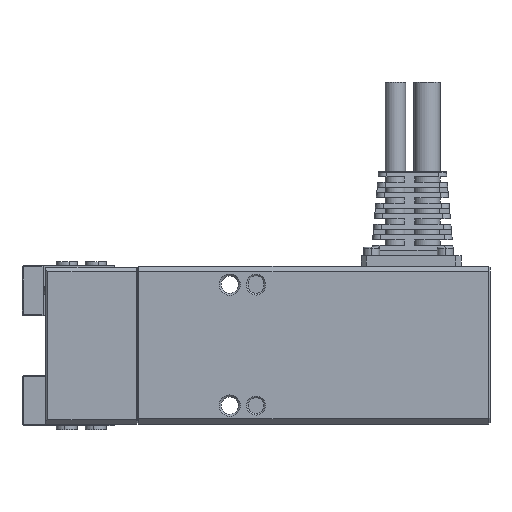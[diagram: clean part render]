
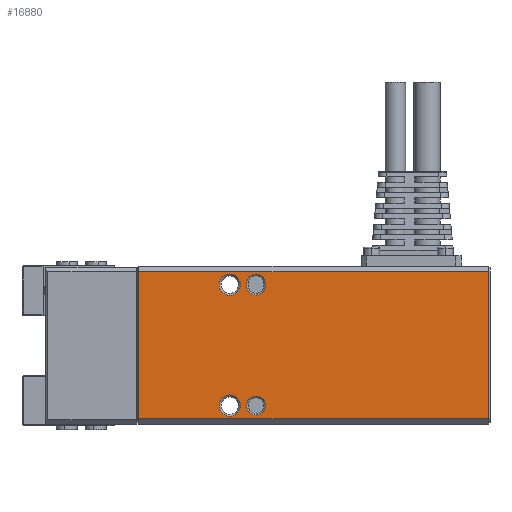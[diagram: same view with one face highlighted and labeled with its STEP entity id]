
A CAD part, left-side view. The second image highlights one B-rep face of the part: STEP entity #16880.
In plain terms, the highlighted planar face has unit normal (-1, 0, 0) as drawn and (0, 1, 0) by its records, which use the part's own axes.
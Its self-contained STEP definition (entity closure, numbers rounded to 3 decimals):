
#182 = EDGE_CURVE ( 'NONE', #13554, #14979, #17456, .T. ) ;
#304 = CARTESIAN_POINT ( 'NONE',  ( 11.5, 9., 19.525 ) ) ;
#528 = CARTESIAN_POINT ( 'NONE',  ( -14., 9., 67. ) ) ;
#647 = CARTESIAN_POINT ( 'NONE',  ( 14., 9., 66.7 ) ) ;
#715 = VERTEX_POINT ( 'NONE', #15121 ) ;
#777 = ORIENTED_EDGE ( 'NONE', *, *, #11090, .T. ) ;
#899 = EDGE_LOOP ( 'NONE', ( #16112, #10241, #13903, #13551 ) ) ;
#993 = FACE_BOUND ( 'NONE', #18476, .T. ) ;
#1122 = AXIS2_PLACEMENT_3D ( 'NONE', #13923, #9260, #15210 ) ;
#1358 = EDGE_CURVE ( 'NONE', #1920, #6464, #8210, .T. ) ;
#1387 = VERTEX_POINT ( 'NONE', #8436 ) ;
#1585 = CARTESIAN_POINT ( 'NONE',  ( 11.675, 9., 24.3 ) ) ;
#1781 = VECTOR ( 'NONE', #2555, 1000. ) ;
#1920 = VERTEX_POINT ( 'NONE', #11696 ) ;
#2114 = ORIENTED_EDGE ( 'NONE', *, *, #6187, .F. ) ;
#2274 = AXIS2_PLACEMENT_3D ( 'NONE', #11841, #17872, #8851 ) ;
#2292 = FACE_BOUND ( 'NONE', #17164, .T. ) ;
#2371 = VECTOR ( 'NONE', #7058, 1000. ) ;
#2429 = EDGE_LOOP ( 'NONE', ( #16132, #7518 ) ) ;
#2482 = VERTEX_POINT ( 'NONE', #5997 ) ;
#2502 = LINE ( 'NONE', #5389, #13450 ) ;
#2555 = DIRECTION ( 'NONE',  ( -1., 0., 0. ) ) ;
#2631 = CARTESIAN_POINT ( 'NONE',  ( -14., 9., 66.7 ) ) ;
#2688 = EDGE_CURVE ( 'NONE', #16971, #5790, #2502, .T. ) ;
#3093 = DIRECTION ( 'NONE',  ( 0., -1., 0. ) ) ;
#3110 = DIRECTION ( 'NONE',  ( 0., 1., 0. ) ) ;
#3185 = AXIS2_PLACEMENT_3D ( 'NONE', #19437, #5863, #16457 ) ;
#3242 = AXIS2_PLACEMENT_3D ( 'NONE', #13803, #3110, #13702 ) ;
#3425 = VERTEX_POINT ( 'NONE', #1585 ) ;
#3622 = DIRECTION ( 'NONE',  ( 1., 0., 0. ) ) ;
#3726 = DIRECTION ( 'NONE',  ( 0., 1., 0. ) ) ;
#3979 = CARTESIAN_POINT ( 'NONE',  ( 15., 9., 67. ) ) ;
#4196 = EDGE_CURVE ( 'NONE', #3425, #2482, #19092, .T. ) ;
#4230 = DIRECTION ( 'NONE',  ( 1., 0., 0. ) ) ;
#4243 = CARTESIAN_POINT ( 'NONE',  ( 11.5, 9., 15.475 ) ) ;
#4378 = EDGE_CURVE ( 'NONE', #6464, #1920, #5081, .T. ) ;
#4421 = CARTESIAN_POINT ( 'NONE',  ( -11.5, 9., 22.5 ) ) ;
#4694 = EDGE_CURVE ( 'NONE', #19079, #1387, #13303, .T. ) ;
#4851 = CIRCLE ( 'NONE', #10219, 1.8 ) ;
#4994 = VERTEX_POINT ( 'NONE', #304 ) ;
#4998 = DIRECTION ( 'NONE',  ( 1., 0., 0. ) ) ;
#5081 = CIRCLE ( 'NONE', #7911, 1.8 ) ;
#5389 = CARTESIAN_POINT ( 'NONE',  ( 14., 9., 67. ) ) ;
#5460 = DIRECTION ( 'NONE',  ( 0., -1., 0. ) ) ;
#5538 = LINE ( 'NONE', #16421, #1781 ) ;
#5790 = VERTEX_POINT ( 'NONE', #18094 ) ;
#5863 = DIRECTION ( 'NONE',  ( 0., 1., 0. ) ) ;
#5997 = CARTESIAN_POINT ( 'NONE',  ( 11.325, 9., 24.3 ) ) ;
#6187 = EDGE_CURVE ( 'NONE', #13364, #4994, #11760, .T. ) ;
#6464 = VERTEX_POINT ( 'NONE', #7256 ) ;
#6767 = ORIENTED_EDGE ( 'NONE', *, *, #14564, .T. ) ;
#6948 = PLANE ( 'NONE',  #17839 ) ;
#7058 = DIRECTION ( 'NONE',  ( 1., 0., 0. ) ) ;
#7256 = CARTESIAN_POINT ( 'NONE',  ( -11.5, 9., 24.3 ) ) ;
#7351 = CIRCLE ( 'NONE', #3242, 2.025 ) ;
#7518 = ORIENTED_EDGE ( 'NONE', *, *, #15563, .F. ) ;
#7911 = AXIS2_PLACEMENT_3D ( 'NONE', #4421, #19283, #4230 ) ;
#7951 = ORIENTED_EDGE ( 'NONE', *, *, #8731, .F. ) ;
#8210 = CIRCLE ( 'NONE', #12331, 1.8 ) ;
#8422 = FACE_BOUND ( 'NONE', #2429, .T. ) ;
#8433 = LINE ( 'NONE', #14489, #2371 ) ;
#8436 = CARTESIAN_POINT ( 'NONE',  ( -11.5, 9., 15.475 ) ) ;
#8614 = FACE_OUTER_BOUND ( 'NONE', #18686, .T. ) ;
#8731 = EDGE_CURVE ( 'NONE', #4994, #13364, #17727, .T. ) ;
#8851 = DIRECTION ( 'NONE',  ( 0., 0., 1. ) ) ;
#9025 = DIRECTION ( 'NONE',  ( 1., 0., 0. ) ) ;
#9260 = DIRECTION ( 'NONE',  ( 0., -1., 0. ) ) ;
#9665 = CIRCLE ( 'NONE', #1122, 1.8 ) ;
#10075 = EDGE_CURVE ( 'NONE', #2482, #11529, #4851, .T. ) ;
#10219 = AXIS2_PLACEMENT_3D ( 'NONE', #12497, #3093, #9025 ) ;
#10241 = ORIENTED_EDGE ( 'NONE', *, *, #18110, .T. ) ;
#10802 = ORIENTED_EDGE ( 'NONE', *, *, #4378, .T. ) ;
#11090 = EDGE_CURVE ( 'NONE', #14979, #16971, #18882, .T. ) ;
#11126 = CARTESIAN_POINT ( 'NONE',  ( 11.325, 9., 20.7 ) ) ;
#11247 = CARTESIAN_POINT ( 'NONE',  ( -11.5, 9., 17.5 ) ) ;
#11322 = DIRECTION ( 'NONE',  ( 0., 0., 1. ) ) ;
#11529 = VERTEX_POINT ( 'NONE', #11126 ) ;
#11606 = DIRECTION ( 'NONE',  ( 1., 0., 0. ) ) ;
#11691 = EDGE_CURVE ( 'NONE', #11529, #715, #8433, .T. ) ;
#11696 = CARTESIAN_POINT ( 'NONE',  ( -11.5, 9., 20.7 ) ) ;
#11760 = CIRCLE ( 'NONE', #2274, 2.025 ) ;
#11841 = CARTESIAN_POINT ( 'NONE',  ( 11.5, 9., 17.5 ) ) ;
#12204 = CARTESIAN_POINT ( 'NONE',  ( 14., 9., 66.7 ) ) ;
#12331 = AXIS2_PLACEMENT_3D ( 'NONE', #14009, #12524, #4998 ) ;
#12483 = ORIENTED_EDGE ( 'NONE', *, *, #2688, .T. ) ;
#12497 = CARTESIAN_POINT ( 'NONE',  ( 11.325, 9., 22.5 ) ) ;
#12524 = DIRECTION ( 'NONE',  ( 0., -1., 0. ) ) ;
#12672 = AXIS2_PLACEMENT_3D ( 'NONE', #11247, #3726, #17289 ) ;
#13303 = CIRCLE ( 'NONE', #12672, 2.025 ) ;
#13364 = VERTEX_POINT ( 'NONE', #4243 ) ;
#13450 = VECTOR ( 'NONE', #14206, 1000. ) ;
#13551 = ORIENTED_EDGE ( 'NONE', *, *, #10075, .T. ) ;
#13554 = VERTEX_POINT ( 'NONE', #17401 ) ;
#13702 = DIRECTION ( 'NONE',  ( 0., 0., 1. ) ) ;
#13803 = CARTESIAN_POINT ( 'NONE',  ( -11.5, 9., 17.5 ) ) ;
#13903 = ORIENTED_EDGE ( 'NONE', *, *, #4196, .T. ) ;
#13923 = CARTESIAN_POINT ( 'NONE',  ( 11.675, 9., 22.5 ) ) ;
#13928 = VECTOR ( 'NONE', #17313, 1000. ) ;
#14009 = CARTESIAN_POINT ( 'NONE',  ( -11.5, 9., 22.5 ) ) ;
#14206 = DIRECTION ( 'NONE',  ( 0., 0., -1. ) ) ;
#14489 = CARTESIAN_POINT ( 'NONE',  ( 15., 9., 20.7 ) ) ;
#14564 = EDGE_CURVE ( 'NONE', #5790, #13554, #5538, .T. ) ;
#14979 = VERTEX_POINT ( 'NONE', #2631 ) ;
#15121 = CARTESIAN_POINT ( 'NONE',  ( 11.675, 9., 20.7 ) ) ;
#15210 = DIRECTION ( 'NONE',  ( 1., 0., 0. ) ) ;
#15563 = EDGE_CURVE ( 'NONE', #1387, #19079, #7351, .T. ) ;
#16025 = CARTESIAN_POINT ( 'NONE',  ( 15., 9., 24.3 ) ) ;
#16112 = ORIENTED_EDGE ( 'NONE', *, *, #11691, .T. ) ;
#16132 = ORIENTED_EDGE ( 'NONE', *, *, #4694, .F. ) ;
#16421 = CARTESIAN_POINT ( 'NONE',  ( 15., 9., 0.2 ) ) ;
#16457 = DIRECTION ( 'NONE',  ( 0., 0., 1. ) ) ;
#16880 = ADVANCED_FACE ( 'NONE', ( #993, #19028, #8422, #2292, #8614 ), #6948, .F. ) ;
#16971 = VERTEX_POINT ( 'NONE', #12204 ) ;
#17164 = EDGE_LOOP ( 'NONE', ( #7951, #2114 ) ) ;
#17225 = VECTOR ( 'NONE', #3622, 1000. ) ;
#17289 = DIRECTION ( 'NONE',  ( 0., 0., 1. ) ) ;
#17313 = DIRECTION ( 'NONE',  ( -1., 0., 0. ) ) ;
#17401 = CARTESIAN_POINT ( 'NONE',  ( -14., 9., 0.2 ) ) ;
#17426 = ORIENTED_EDGE ( 'NONE', *, *, #182, .T. ) ;
#17456 = LINE ( 'NONE', #528, #18928 ) ;
#17727 = CIRCLE ( 'NONE', #3185, 2.025 ) ;
#17839 = AXIS2_PLACEMENT_3D ( 'NONE', #3979, #5460, #11606 ) ;
#17872 = DIRECTION ( 'NONE',  ( 0., 1., 0. ) ) ;
#18094 = CARTESIAN_POINT ( 'NONE',  ( 14., 9., 0.2 ) ) ;
#18110 = EDGE_CURVE ( 'NONE', #715, #3425, #9665, .T. ) ;
#18286 = ORIENTED_EDGE ( 'NONE', *, *, #1358, .T. ) ;
#18476 = EDGE_LOOP ( 'NONE', ( #10802, #18286 ) ) ;
#18686 = EDGE_LOOP ( 'NONE', ( #12483, #6767, #17426, #777 ) ) ;
#18882 = LINE ( 'NONE', #647, #17225 ) ;
#18928 = VECTOR ( 'NONE', #11322, 1000. ) ;
#19028 = FACE_BOUND ( 'NONE', #899, .T. ) ;
#19079 = VERTEX_POINT ( 'NONE', #19085 ) ;
#19085 = CARTESIAN_POINT ( 'NONE',  ( -11.5, 9., 19.525 ) ) ;
#19092 = LINE ( 'NONE', #16025, #13928 ) ;
#19283 = DIRECTION ( 'NONE',  ( 0., -1., 0. ) ) ;
#19437 = CARTESIAN_POINT ( 'NONE',  ( 11.5, 9., 17.5 ) ) ;
